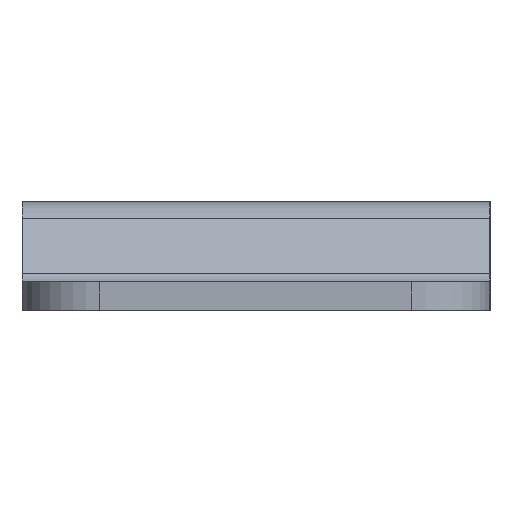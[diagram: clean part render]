
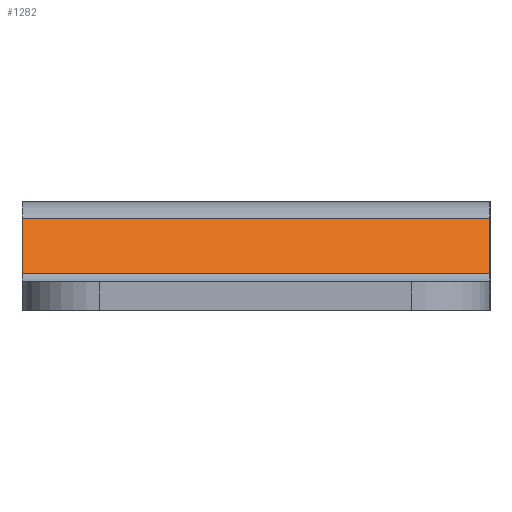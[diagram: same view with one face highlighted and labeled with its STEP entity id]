
A CAD part, left-side view. The second image highlights one B-rep face of the part: STEP entity #1282.
In plain terms, the highlighted planar face has unit normal (-0.707, 0, 0.707).
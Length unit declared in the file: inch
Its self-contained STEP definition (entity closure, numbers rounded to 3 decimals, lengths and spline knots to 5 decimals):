
#413=DIRECTION('',(-0.707,0.,-0.707));
#414=VECTOR('',#413,0.25088);
#415=CARTESIAN_POINT('',(-3.42772,0.75,-0.05272));
#416=LINE('',#415,#414);
#417=DIRECTION('',(0.,-1.,0.));
#418=VECTOR('',#417,1.5);
#419=CARTESIAN_POINT('',(-3.42772,0.75,-0.05272));
#420=LINE('',#419,#418);
#421=DIRECTION('',(0.,1.,0.));
#422=VECTOR('',#421,1.5);
#423=CARTESIAN_POINT('',(-3.60512,-0.75,-0.23012));
#424=LINE('',#423,#422);
#493=DIRECTION('',(-0.707,0.,-0.707));
#494=VECTOR('',#493,0.25088);
#495=CARTESIAN_POINT('',(-3.42772,-0.75,-0.05272));
#496=LINE('',#495,#494);
#554=CARTESIAN_POINT('',(-3.42772,0.75,-0.05272));
#556=VERTEX_POINT('',#554);
#558=CARTESIAN_POINT('',(-3.42772,-0.75,-0.05272));
#560=VERTEX_POINT('',#558);
#593=CARTESIAN_POINT('',(-3.60512,0.75,-0.23012));
#594=VERTEX_POINT('',#593);
#595=CARTESIAN_POINT('',(-3.60512,-0.75,-0.23012));
#596=VERTEX_POINT('',#595);
#1269=CARTESIAN_POINT('',(-3.42772,0.75,-0.05272));
#1270=DIRECTION('',(-0.707,0.,0.707));
#1271=DIRECTION('',(-0.707,0.,-0.707));
#1272=AXIS2_PLACEMENT_3D('',#1269,#1270,#1271);
#1273=PLANE('',#1272);
#1275=ORIENTED_EDGE('',*,*,#1274,.T.);
#1276=ORIENTED_EDGE('',*,*,#1264,.F.);
#1277=ORIENTED_EDGE('',*,*,#1014,.T.);
#1279=ORIENTED_EDGE('',*,*,#1278,.T.);
#1280=EDGE_LOOP('',(#1275,#1276,#1277,#1279));
#1281=FACE_OUTER_BOUND('',#1280,.F.);
#1282=ADVANCED_FACE('',(#1281),#1273,.T.);
#1014=EDGE_CURVE('',#556,#560,#420,.T.);
#1264=EDGE_CURVE('',#556,#594,#416,.T.);
#1274=EDGE_CURVE('',#596,#594,#424,.T.);
#1278=EDGE_CURVE('',#560,#596,#496,.T.);
